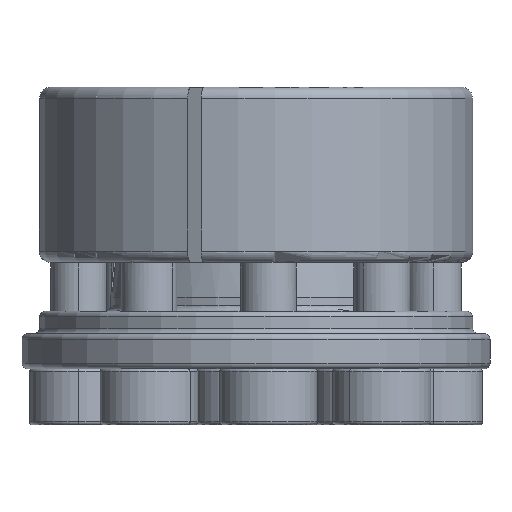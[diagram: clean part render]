
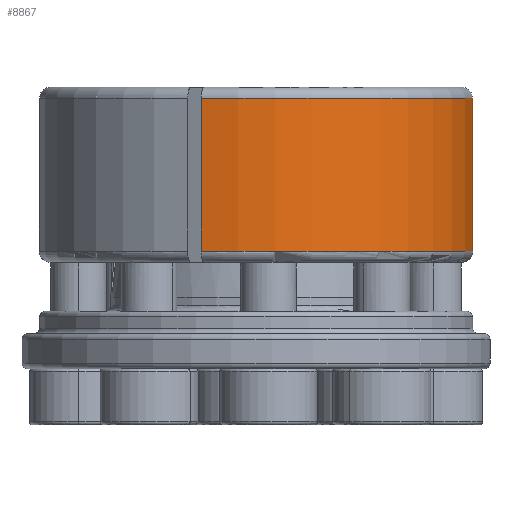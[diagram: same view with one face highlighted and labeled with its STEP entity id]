
A CAD part, left-side view. The second image highlights one B-rep face of the part: STEP entity #8867.
In plain terms, the highlighted cylindrical face has radius 15.5 mm (diameter 31 mm), a partial arc.
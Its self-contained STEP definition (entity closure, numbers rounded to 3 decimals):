
#243 = FACE_OUTER_BOUND ( 'NONE', #8317, .T. ) ;
#259 = CYLINDRICAL_SURFACE ( 'NONE', #5433, 15.5 ) ;
#908 = VERTEX_POINT ( 'NONE', #4467 ) ;
#909 = VERTEX_POINT ( 'NONE', #4470 ) ;
#917 = VERTEX_POINT ( 'NONE', #4454 ) ;
#935 = VERTEX_POINT ( 'NONE', #4425 ) ;
#4068 = CARTESIAN_POINT ( 'NONE',  ( 0., 0., 1.667 ) ) ;
#4070 = DIRECTION ( 'NONE',  ( 0., 0., 1. ) ) ;
#4072 = DIRECTION ( 'NONE',  ( 0.07, -0.998, 0. ) ) ;
#4425 = CARTESIAN_POINT ( 'NONE',  ( -14.996, 3.92, -0.8 ) ) ;
#4454 = CARTESIAN_POINT ( 'NONE',  ( -14.996, 3.92, -11.7 ) ) ;
#4467 = CARTESIAN_POINT ( 'NONE',  ( 1.081, -15.462, -0.8 ) ) ;
#4470 = CARTESIAN_POINT ( 'NONE',  ( 1.081, -15.462, -11.7 ) ) ;
#4688 = CIRCLE ( 'NONE', #5807, 15.5 ) ;
#4693 = CIRCLE ( 'NONE', #5810, 15.5 ) ;
#4695 = LINE ( 'NONE', #9382, #4698 ) ;
#4698 = VECTOR ( 'NONE', #9380, 1000. ) ;
#4699 = LINE ( 'NONE', #9381, #4701 ) ;
#4701 = VECTOR ( 'NONE', #9388, 1000. ) ;
#5433 = AXIS2_PLACEMENT_3D ( 'NONE', #4068, #4070, #4072 ) ;
#5807 = AXIS2_PLACEMENT_3D ( 'NONE', #9404, #9403, #9402 ) ;
#5810 = AXIS2_PLACEMENT_3D ( 'NONE', #9378, #9377, #9376 ) ;
#8084 = ORIENTED_EDGE ( 'NONE', *, *, #9957, .T. ) ;
#8085 = ORIENTED_EDGE ( 'NONE', *, *, #9956, .T. ) ;
#8087 = ORIENTED_EDGE ( 'NONE', *, *, #9951, .F. ) ;
#8088 = ORIENTED_EDGE ( 'NONE', *, *, #9958, .T. ) ;
#8317 = EDGE_LOOP ( 'NONE', ( #8084, #8085, #8087, #8088 ) ) ;
#8867 = ADVANCED_FACE ( 'NONE', ( #243 ), #259, .T. ) ;
#9376 = DIRECTION ( 'NONE',  ( 0.07, -0.998, 0. ) ) ;
#9377 = DIRECTION ( 'NONE',  ( 0., 0., 1. ) ) ;
#9378 = CARTESIAN_POINT ( 'NONE',  ( 0., 0., -11.7 ) ) ;
#9380 = DIRECTION ( 'NONE',  ( 0., 0., 1. ) ) ;
#9381 = CARTESIAN_POINT ( 'NONE',  ( -14.996, 3.92, 1.667 ) ) ;
#9382 = CARTESIAN_POINT ( 'NONE',  ( 1.081, -15.462, 1.667 ) ) ;
#9388 = DIRECTION ( 'NONE',  ( 0., 0., -1. ) ) ;
#9402 = DIRECTION ( 'NONE',  ( 0.07, -0.998, 0. ) ) ;
#9403 = DIRECTION ( 'NONE',  ( 0., 0., 1. ) ) ;
#9404 = CARTESIAN_POINT ( 'NONE',  ( 0., 0., -0.8 ) ) ;
#9951 = EDGE_CURVE ( 'NONE', #935, #908, #4688, .T. ) ;
#9956 = EDGE_CURVE ( 'NONE', #909, #908, #4695, .T. ) ;
#9957 = EDGE_CURVE ( 'NONE', #917, #909, #4693, .T. ) ;
#9958 = EDGE_CURVE ( 'NONE', #935, #917, #4699, .T. ) ;
